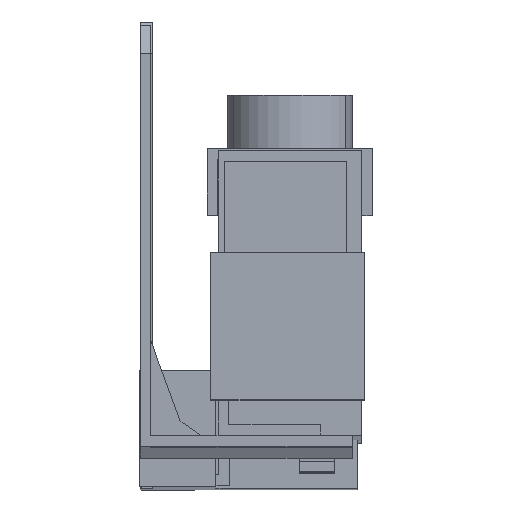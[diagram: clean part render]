
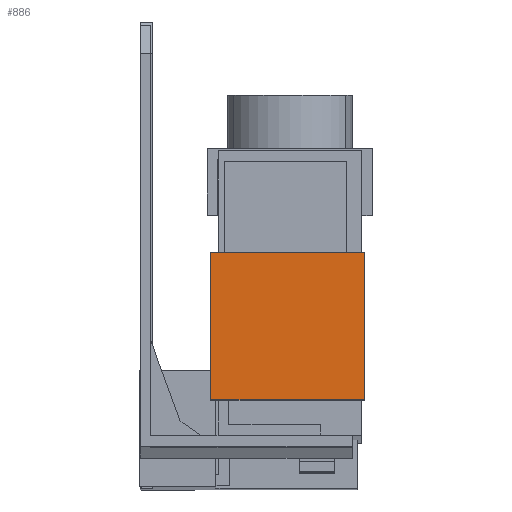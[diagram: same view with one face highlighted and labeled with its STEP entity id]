
A CAD part, front view. The second image highlights one B-rep face of the part: STEP entity #886.
In plain terms, the highlighted planar face has unit normal (0, -1, 0.003).
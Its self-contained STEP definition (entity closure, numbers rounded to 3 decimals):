
#437 = CARTESIAN_POINT ( 'NONE',  ( 10.05, -31.452, -19.316 ) ) ;
#439 = CARTESIAN_POINT ( 'NONE',  ( 31.95, -31.452, -19.316 ) ) ;
#442 = CARTESIAN_POINT ( 'NONE',  ( 10.05, -31.509, -40.315 ) ) ;
#443 = CARTESIAN_POINT ( 'NONE',  ( 31.95, -31.509, -40.315 ) ) ;
#457 = VERTEX_POINT ( 'NONE', #443 ) ;
#458 = VERTEX_POINT ( 'NONE', #442 ) ;
#461 = VERTEX_POINT ( 'NONE', #439 ) ;
#462 = VERTEX_POINT ( 'NONE', #437 ) ;
#886 = ADVANCED_FACE ( 'NONE', ( #1827 ), #2743, .T. ) ;
#1160 = EDGE_LOOP ( 'NONE', ( #7448, #7449, #7450, #7451 ) ) ;
#1827 = FACE_OUTER_BOUND ( 'NONE', #1160, .T. ) ;
#1966 = VECTOR ( 'NONE', #3002, 1000. ) ;
#1972 = LINE ( 'NONE', #3001, #1966 ) ;
#2743 = PLANE ( 'NONE',  #6310 ) ;
#2746 = CARTESIAN_POINT ( 'NONE',  ( 9.3, -31.509, -40.315 ) ) ;
#2752 = DIRECTION ( 'NONE',  ( 0., -1., 0.003 ) ) ;
#2753 = DIRECTION ( 'NONE',  ( -1., 0., 0. ) ) ;
#3001 = CARTESIAN_POINT ( 'NONE',  ( 9.3, -31.452, -19.316 ) ) ;
#3002 = DIRECTION ( 'NONE',  ( 1., 0., 0. ) ) ;
#3358 = CARTESIAN_POINT ( 'NONE',  ( 31.95, -31.452, -19.316 ) ) ;
#3365 = DIRECTION ( 'NONE',  ( 0., -0.003, -1. ) ) ;
#3446 = VECTOR ( 'NONE', #3365, 1000. ) ;
#3454 = LINE ( 'NONE', #3358, #3446 ) ;
#3904 = LINE ( 'NONE', #4788, #3912 ) ;
#3912 = VECTOR ( 'NONE', #4789, 1000. ) ;
#3914 = LINE ( 'NONE', #4784, #3915 ) ;
#3915 = VECTOR ( 'NONE', #4785, 1000. ) ;
#4784 = CARTESIAN_POINT ( 'NONE',  ( 10.05, -31.509, -40.315 ) ) ;
#4785 = DIRECTION ( 'NONE',  ( 0., 0.003, 1. ) ) ;
#4788 = CARTESIAN_POINT ( 'NONE',  ( 9.3, -31.509, -40.315 ) ) ;
#4789 = DIRECTION ( 'NONE',  ( 1., 0., 0. ) ) ;
#5523 = EDGE_CURVE ( 'NONE', #462, #461, #1972, .T. ) ;
#5680 = EDGE_CURVE ( 'NONE', #461, #457, #3454, .T. ) ;
#6088 = EDGE_CURVE ( 'NONE', #458, #462, #3914, .T. ) ;
#6094 = EDGE_CURVE ( 'NONE', #458, #457, #3904, .T. ) ;
#6310 = AXIS2_PLACEMENT_3D ( 'NONE', #2746, #2752, #2753 ) ;
#7448 = ORIENTED_EDGE ( 'NONE', *, *, #5523, .F. ) ;
#7449 = ORIENTED_EDGE ( 'NONE', *, *, #6088, .F. ) ;
#7450 = ORIENTED_EDGE ( 'NONE', *, *, #6094, .T. ) ;
#7451 = ORIENTED_EDGE ( 'NONE', *, *, #5680, .F. ) ;
